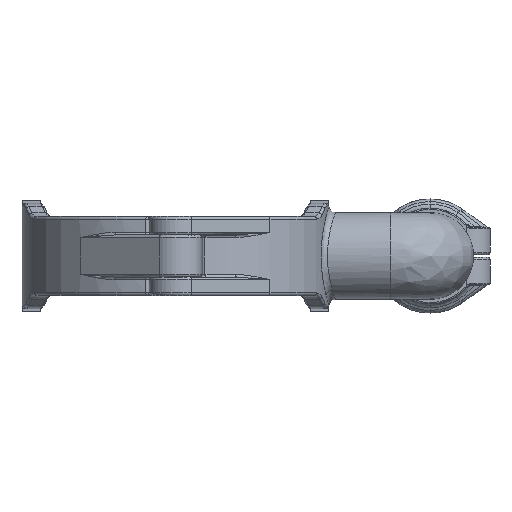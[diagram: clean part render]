
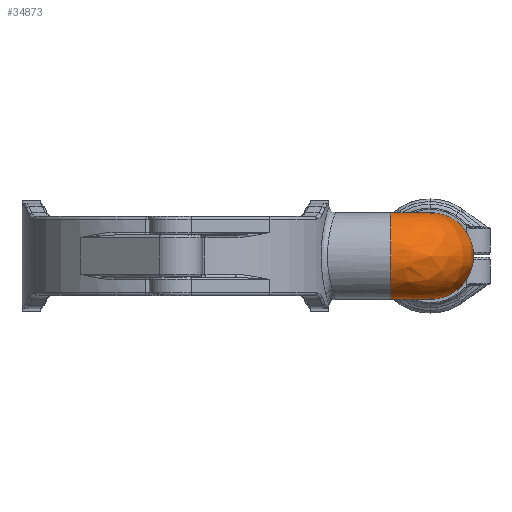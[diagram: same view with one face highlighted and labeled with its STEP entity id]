
A CAD part, front view. The second image highlights one B-rep face of the part: STEP entity #34873.
In plain terms, the highlighted free-form (B-spline) face has degree [3, 3] with [4, 7] control points.
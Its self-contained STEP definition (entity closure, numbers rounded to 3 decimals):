
#23709=CARTESIAN_POINT('',(75.055,83.999,11.962));
#23791=CARTESIAN_POINT('',(75.055,72.351,
0.));
#23792=DIRECTION('',(-1.,0.,0.));
#23793=DIRECTION('',(0.,0.,-1.));
#23794=AXIS2_PLACEMENT_3D('',#23791,#23792,#23793);
#23799=CARTESIAN_POINT('',(75.055,72.351,
0.));
#23800=DIRECTION('',(-1.,0.,0.));
#23801=DIRECTION('',(0.,0.,1.));
#23802=AXIS2_PLACEMENT_3D('',#23799,#23800,#23801);
#23807=CARTESIAN_POINT('',(75.055,83.999,11.962));
#23808=CARTESIAN_POINT('',(75.426,84.083,11.881));
#23809=CARTESIAN_POINT('',(76.118,84.33,11.753));
#23810=CARTESIAN_POINT('',(76.983,84.871,11.66));
#23811=CARTESIAN_POINT('',(77.74,85.636,11.662));
#23812=CARTESIAN_POINT('',(78.263,86.489,11.756));
#23813=CARTESIAN_POINT('',(78.504,87.168,11.883));
#23814=CARTESIAN_POINT('',(78.585,87.53,11.962));
#23819=CARTESIAN_POINT('',(90.234,87.529,
0.));
#23820=DIRECTION('',(0.,1.,0.));
#23821=DIRECTION('',(-0.698,0.,0.716));
#23822=AXIS2_PLACEMENT_3D('',#23819,#23820,#23821);
#23827=CARTESIAN_POINT('',(90.234,87.529,
0.));
#23828=DIRECTION('',(0.,1.,0.));
#23829=DIRECTION('',(0.,0.,1.));
#23830=AXIS2_PLACEMENT_3D('',#23827,#23828,#23829);
#23835=CARTESIAN_POINT('',(90.234,87.529,
0.));
#23836=DIRECTION('',(0.,1.,0.));
#23837=DIRECTION('',(0.,0.,-1.));
#23838=AXIS2_PLACEMENT_3D('',#23835,#23836,#23837);
#23843=CARTESIAN_POINT('',(78.585,87.53,
-11.962));
#23844=CARTESIAN_POINT('',(78.502,87.159,
-11.881));
#23845=CARTESIAN_POINT('',(78.255,86.467,
-11.753));
#23846=CARTESIAN_POINT('',(77.714,85.602,
-11.66));
#23847=CARTESIAN_POINT('',(76.948,84.845,
-11.662));
#23848=CARTESIAN_POINT('',(76.095,84.321,
-11.756));
#23849=CARTESIAN_POINT('',(75.417,84.081,
-11.883));
#23850=CARTESIAN_POINT('',(75.055,83.999,
-11.962));
#23855=CARTESIAN_POINT('',(75.055,72.351,
0.));
#23856=DIRECTION('',(-1.,0.,0.));
#23857=DIRECTION('',(0.,0.698,-0.716));
#23858=AXIS2_PLACEMENT_3D('',#23855,#23856,#23857);
#29465=CARTESIAN_POINT('',(75.055,72.351,
-16.696));
#29466=VERTEX_POINT('',#29465);
#29467=CARTESIAN_POINT('',(75.055,84.,
-11.962));
#29468=VERTEX_POINT('',#29467);
#29471=VERTEX_POINT('',#23709);
#29472=CARTESIAN_POINT('',(75.055,72.351,16.696));
#29473=VERTEX_POINT('',#29472);
#29474=VERTEX_POINT('',#23814);
#29475=CARTESIAN_POINT('',(90.234,87.529,16.696));
#29476=VERTEX_POINT('',#29475);
#29477=CARTESIAN_POINT('',(90.234,87.529,-16.696));
#29478=VERTEX_POINT('',#29477);
#29479=CARTESIAN_POINT('',(78.585,87.53,
-11.962));
#29480=VERTEX_POINT('',#29479);
#34829=CARTESIAN_POINT('',(77.229,87.692,10.479));
#34830=CARTESIAN_POINT('',(89.062,88.575,25.198));
#34831=CARTESIAN_POINT('',(106.842,89.903,18.906));
#34832=CARTESIAN_POINT('',(106.842,89.903,
0.));
#34833=CARTESIAN_POINT('',(106.842,89.903,
-18.906));
#34834=CARTESIAN_POINT('',(89.062,88.575,
-25.198));
#34835=CARTESIAN_POINT('',(77.229,87.692,
-10.479));
#34836=CARTESIAN_POINT('',(77.336,86.263,10.479));
#34837=CARTESIAN_POINT('',(89.75,79.366,25.198));
#34838=CARTESIAN_POINT('',(108.402,69.003,18.906));
#34839=CARTESIAN_POINT('',(108.402,69.003,
0.));
#34840=CARTESIAN_POINT('',(108.402,69.003,
-18.906));
#34841=CARTESIAN_POINT('',(89.75,79.366,
-25.198));
#34842=CARTESIAN_POINT('',(77.336,86.263,
-10.479));
#34843=CARTESIAN_POINT('',(76.322,85.249,10.479));
#34844=CARTESIAN_POINT('',(83.219,72.835,25.198));
#34845=CARTESIAN_POINT('',(93.582,54.183,18.906));
#34846=CARTESIAN_POINT('',(93.582,54.183,
0.));
#34847=CARTESIAN_POINT('',(93.582,54.183,
-18.906));
#34848=CARTESIAN_POINT('',(83.219,72.835,
-25.198));
#34849=CARTESIAN_POINT('',(76.322,85.249,
-10.479));
#34850=CARTESIAN_POINT('',(74.893,85.356,10.479));
#34851=CARTESIAN_POINT('',(74.01,73.523,25.198));
#34852=CARTESIAN_POINT('',(72.682,55.743,18.906));
#34853=CARTESIAN_POINT('',(72.682,55.743,
0.));
#34854=CARTESIAN_POINT('',(72.682,55.743,
-18.906));
#34855=CARTESIAN_POINT('',(74.01,73.523,
-25.198));
#34856=CARTESIAN_POINT('',(74.893,85.356,
-10.479));
#34857=(BOUNDED_SURFACE()B_SPLINE_SURFACE(3,3,((#34829,#34830,#34831,#34832,
#34833,#34834,#34835),(#34836,#34837,#34838,#34839,#34840,#34841,#34842),
(#34843,#34844,#34845,#34846,#34847,#34848,#34849),(#34850,#34851,#34852,#34853,
#34854,#34855,#34856)),.UNSPECIFIED.,.F.,.F.,.F.)B_SPLINE_SURFACE_WITH_KNOTS((4,
4),(4,3,4),(0.,1.),(0.,1.,2.),.UNSPECIFIED.)GEOMETRIC_REPRESENTATION_ITEM()RATIONAL_B_SPLINE_SURFACE(((1.816,1.008,
1.008,1.816,1.008,1.008,
1.816),(1.395,0.775,0.775,
1.395,0.775,0.775,1.395),(
1.395,0.775,0.775,1.395,
0.775,0.775,1.395),(1.816,
1.008,1.008,1.816,1.008,
1.008,1.816)))REPRESENTATION_ITEM('')SURFACE());
#34858=ORIENTED_EDGE('',*,*,#34823,.T.);
#34859=ORIENTED_EDGE('',*,*,#34805,.T.);
#34861=ORIENTED_EDGE('',*,*,#34860,.T.);
#34863=ORIENTED_EDGE('',*,*,#34862,.T.);
#34865=ORIENTED_EDGE('',*,*,#34864,.T.);
#34867=ORIENTED_EDGE('',*,*,#34866,.T.);
#34869=ORIENTED_EDGE('',*,*,#34868,.T.);
#34870=ORIENTED_EDGE('',*,*,#34797,.T.);
#34871=EDGE_LOOP('',(#34858,#34859,#34861,#34863,#34865,#34867,#34869,#34870));
#34872=FACE_OUTER_BOUND('',#34871,.F.);
#23795=CIRCLE('',#23794,16.696);
#23803=CIRCLE('',#23802,16.696);
#23815=B_SPLINE_CURVE_WITH_KNOTS('',3,(#23807,#23808,#23809,#23810,#23811,
#23812,#23813,#23814),.UNSPECIFIED.,.F.,.F.,(4,1,1,1,1,4),(0.,0.2,0.4,
0.6,0.8,1.),.UNSPECIFIED.);
#23823=CIRCLE('',#23822,16.696);
#23831=CIRCLE('',#23830,16.696);
#23839=CIRCLE('',#23838,16.696);
#23851=B_SPLINE_CURVE_WITH_KNOTS('',3,(#23843,#23844,#23845,#23846,#23847,
#23848,#23849,#23850),.UNSPECIFIED.,.F.,.F.,(4,1,1,1,1,4),(0.,0.2,0.4,
0.6,0.8,1.),.UNSPECIFIED.);
#23859=CIRCLE('',#23858,16.696);
#34797=EDGE_CURVE('',#29468,#29466,#23859,.T.);
#34805=EDGE_CURVE('',#29473,#29471,#23803,.T.);
#34823=EDGE_CURVE('',#29466,#29473,#23795,.T.);
#34860=EDGE_CURVE('',#29471,#29474,#23815,.T.);
#34862=EDGE_CURVE('',#29474,#29476,#23823,.T.);
#34864=EDGE_CURVE('',#29476,#29478,#23831,.T.);
#34866=EDGE_CURVE('',#29478,#29480,#23839,.T.);
#34868=EDGE_CURVE('',#29480,#29468,#23851,.T.);
#34873=ADVANCED_FACE('',(#34872),#34857,.T.);
